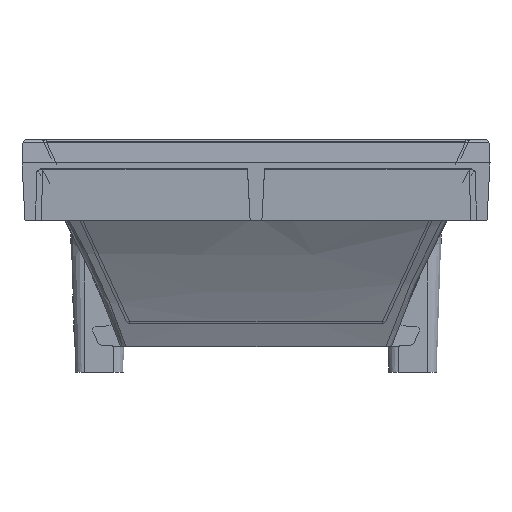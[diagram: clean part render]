
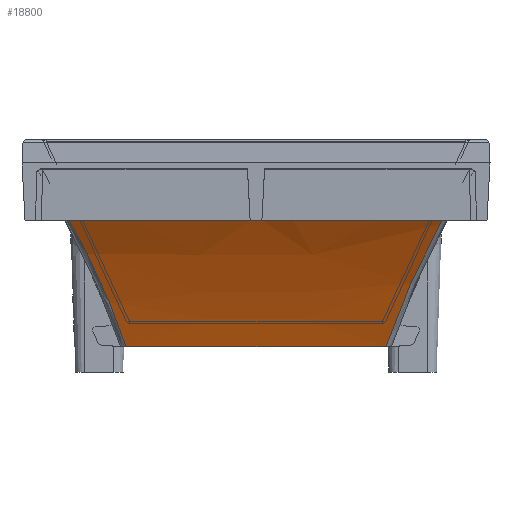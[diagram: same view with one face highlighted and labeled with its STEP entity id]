
A CAD part, left-side view. The second image highlights one B-rep face of the part: STEP entity #18800.
In plain terms, the highlighted free-form (B-spline) face has degree [3, 3] with [7, 4] control points.
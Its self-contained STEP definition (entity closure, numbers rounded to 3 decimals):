
#146=B_SPLINE_SURFACE_WITH_KNOTS('',3,3,((#30131,#30132,#30133,#30134),
(#30135,#30136,#30137,#30138),(#30139,#30140,#30141,#30142),(#30143,#30144,
#30145,#30146),(#30147,#30148,#30149,#30150),(#30151,#30152,#30153,#30154),
(#30155,#30156,#30157,#30158)),.UNSPECIFIED.,.F.,.F.,.F.,(4,1,1,1,4),(4,
4),(0.049,0.431,0.59,0.701,
0.813),(-0.036,1.036),.UNSPECIFIED.);
#1382=B_SPLINE_CURVE_WITH_KNOTS('',3,(#26547,#26548,#26549,#26550),
 .UNSPECIFIED.,.F.,.F.,(4,4),(0.,0.022),.UNSPECIFIED.);
#1785=B_SPLINE_CURVE_WITH_KNOTS('',3,(#30159,#30160,#30161,#30162,#30163,
#30164),.UNSPECIFIED.,.F.,.F.,(4,1,1,4),(0.,0.005,0.01,
0.019),.UNSPECIFIED.);
#1786=B_SPLINE_CURVE_WITH_KNOTS('',3,(#30166,#30167,#30168,#30169),
 .UNSPECIFIED.,.F.,.F.,(4,4),(0.,0.),.UNSPECIFIED.);
#1787=B_SPLINE_CURVE_WITH_KNOTS('',3,(#30171,#30172,#30173,#30174),
 .UNSPECIFIED.,.F.,.F.,(4,4),(0.,0.018),
 .UNSPECIFIED.);
#1788=B_SPLINE_CURVE_WITH_KNOTS('',3,(#30176,#30177,#30178,#30179),
 .UNSPECIFIED.,.F.,.F.,(4,4),(0.,0.005),.UNSPECIFIED.);
#1789=B_SPLINE_CURVE_WITH_KNOTS('',3,(#30181,#30182,#30183,#30184),
 .UNSPECIFIED.,.F.,.F.,(4,4),(0.,0.001),.UNSPECIFIED.);
#1790=B_SPLINE_CURVE_WITH_KNOTS('',3,(#30186,#30187,#30188,#30189),
 .UNSPECIFIED.,.F.,.F.,(4,4),(0.,0.005),.UNSPECIFIED.);
#1791=B_SPLINE_CURVE_WITH_KNOTS('',3,(#30191,#30192,#30193,#30194),
 .UNSPECIFIED.,.F.,.F.,(4,4),(0.,0.018),.UNSPECIFIED.);
#1792=B_SPLINE_CURVE_WITH_KNOTS('',3,(#30196,#30197,#30198,#30199),
 .UNSPECIFIED.,.F.,.F.,(4,4),(0.,0.),.UNSPECIFIED.);
#1793=B_SPLINE_CURVE_WITH_KNOTS('',3,(#30201,#30202,#30203,#30204,#30205,
#30206),.UNSPECIFIED.,.F.,.F.,(4,1,1,4),(0.,0.01,
0.014,0.019),.UNSPECIFIED.);
#5590=ORIENTED_EDGE('',*,*,#11471,.T.);
#5591=ORIENTED_EDGE('',*,*,#11472,.T.);
#5592=ORIENTED_EDGE('',*,*,#11473,.T.);
#5593=ORIENTED_EDGE('',*,*,#11474,.F.);
#5594=ORIENTED_EDGE('',*,*,#11475,.F.);
#5595=ORIENTED_EDGE('',*,*,#11476,.F.);
#5596=ORIENTED_EDGE('',*,*,#11477,.T.);
#5597=ORIENTED_EDGE('',*,*,#11478,.T.);
#5598=ORIENTED_EDGE('',*,*,#11479,.T.);
#5599=ORIENTED_EDGE('',*,*,#10905,.F.);
#10905=EDGE_CURVE('',#13901,#13902,#1382,.T.);
#11471=EDGE_CURVE('',#13901,#14356,#1785,.T.);
#11472=EDGE_CURVE('',#14356,#14357,#1786,.T.);
#11473=EDGE_CURVE('',#14357,#14358,#1787,.T.);
#11474=EDGE_CURVE('',#14359,#14358,#1788,.T.);
#11475=EDGE_CURVE('',#14360,#14359,#1789,.T.);
#11476=EDGE_CURVE('',#14361,#14360,#1790,.T.);
#11477=EDGE_CURVE('',#14361,#14362,#1791,.T.);
#11478=EDGE_CURVE('',#14362,#14363,#1792,.T.);
#11479=EDGE_CURVE('',#14363,#13902,#1793,.T.);
#13901=VERTEX_POINT('',#26546);
#13902=VERTEX_POINT('',#26551);
#14356=VERTEX_POINT('',#30165);
#14357=VERTEX_POINT('',#30170);
#14358=VERTEX_POINT('',#30175);
#14359=VERTEX_POINT('',#30180);
#14360=VERTEX_POINT('',#30185);
#14361=VERTEX_POINT('',#30190);
#14362=VERTEX_POINT('',#30195);
#14363=VERTEX_POINT('',#30200);
#15863=EDGE_LOOP('',(#5590,#5591,#5592,#5593,#5594,#5595,#5596,#5597,#5598,
#5599));
#17131=FACE_BOUND('',#15863,.T.);
#18800=ADVANCED_FACE('',(#17131),#146,.T.);
#26546=CARTESIAN_POINT('',(-12.921,-11.114,0.));
#26547=CARTESIAN_POINT('',(-12.921,-11.114,0.));
#26548=CARTESIAN_POINT('',(-12.921,-3.705,0.));
#26549=CARTESIAN_POINT('',(-12.921,3.705,0.));
#26550=CARTESIAN_POINT('',(-12.921,11.114,0.));
#26551=CARTESIAN_POINT('',(-12.921,11.114,0.));
#30131=CARTESIAN_POINT('',(-21.886,18.773,15.227));
#30132=CARTESIAN_POINT('',(-21.886,6.258,15.227));
#30133=CARTESIAN_POINT('',(-21.886,-6.258,15.227));
#30134=CARTESIAN_POINT('',(-21.886,-18.773,15.227));
#30135=CARTESIAN_POINT('',(-20.106,17.389,12.837));
#30136=CARTESIAN_POINT('',(-20.106,5.796,12.837));
#30137=CARTESIAN_POINT('',(-20.106,-5.796,12.837));
#30138=CARTESIAN_POINT('',(-20.106,-17.389,12.837));
#30139=CARTESIAN_POINT('',(-17.761,15.437,9.365));
#30140=CARTESIAN_POINT('',(-17.761,5.146,9.365));
#30141=CARTESIAN_POINT('',(-17.761,-5.146,9.365));
#30142=CARTESIAN_POINT('',(-17.761,-15.437,9.365));
#30143=CARTESIAN_POINT('',(-15.301,13.255,4.992));
#30144=CARTESIAN_POINT('',(-15.301,4.418,4.992));
#30145=CARTESIAN_POINT('',(-15.301,-4.418,4.992));
#30146=CARTESIAN_POINT('',(-15.301,-13.255,4.992));
#30147=CARTESIAN_POINT('',(-13.977,12.1,2.366));
#30148=CARTESIAN_POINT('',(-13.977,4.033,2.366));
#30149=CARTESIAN_POINT('',(-13.977,-4.033,2.366));
#30150=CARTESIAN_POINT('',(-13.977,-12.1,2.366));
#30151=CARTESIAN_POINT('',(-13.262,11.493,0.797));
#30152=CARTESIAN_POINT('',(-13.262,3.831,0.797));
#30153=CARTESIAN_POINT('',(-13.262,-3.831,0.797));
#30154=CARTESIAN_POINT('',(-13.262,-11.493,0.797));
#30155=CARTESIAN_POINT('',(-12.921,11.248,0.));
#30156=CARTESIAN_POINT('',(-12.921,3.749,0.));
#30157=CARTESIAN_POINT('',(-12.921,-3.749,0.));
#30158=CARTESIAN_POINT('',(-12.921,-11.248,0.));
#30159=CARTESIAN_POINT('',(-12.921,-11.114,0.));
#30160=CARTESIAN_POINT('',(-13.528,-11.545,1.416));
#30161=CARTESIAN_POINT('',(-14.819,-12.598,4.127));
#30162=CARTESIAN_POINT('',(-17.693,-15.038,9.273));
#30163=CARTESIAN_POINT('',(-20.142,-16.995,12.886));
#30164=CARTESIAN_POINT('',(-21.879,-18.307,15.218));
#30165=CARTESIAN_POINT('',(-21.879,-18.307,15.218));
#30166=CARTESIAN_POINT('',(-21.879,-18.307,15.218));
#30167=CARTESIAN_POINT('',(-21.883,-18.283,15.224));
#30168=CARTESIAN_POINT('',(-21.886,-18.258,15.227));
#30169=CARTESIAN_POINT('',(-21.886,-18.232,15.227));
#30170=CARTESIAN_POINT('',(-21.886,-18.232,15.227));
#30171=CARTESIAN_POINT('',(-21.886,-18.232,15.227));
#30172=CARTESIAN_POINT('',(-21.886,-12.399,15.227));
#30173=CARTESIAN_POINT('',(-21.886,-6.565,15.227));
#30174=CARTESIAN_POINT('',(-21.886,-0.732,15.227));
#30175=CARTESIAN_POINT('',(-21.886,-0.732,15.227));
#30176=CARTESIAN_POINT('',(-18.786,-0.5,10.8));
#30177=CARTESIAN_POINT('',(-19.774,-0.579,12.308));
#30178=CARTESIAN_POINT('',(-20.809,-0.656,13.782));
#30179=CARTESIAN_POINT('',(-21.886,-0.732,15.227));
#30180=CARTESIAN_POINT('',(-18.786,-0.5,10.8));
#30181=CARTESIAN_POINT('',(-18.786,0.5,10.8));
#30182=CARTESIAN_POINT('',(-18.786,0.167,10.8));
#30183=CARTESIAN_POINT('',(-18.786,-0.167,10.8));
#30184=CARTESIAN_POINT('',(-18.786,-0.5,10.8));
#30185=CARTESIAN_POINT('',(-18.786,0.5,10.8));
#30186=CARTESIAN_POINT('',(-21.886,0.732,15.227));
#30187=CARTESIAN_POINT('',(-20.809,0.656,13.782));
#30188=CARTESIAN_POINT('',(-19.774,0.579,12.308));
#30189=CARTESIAN_POINT('',(-18.786,0.5,10.8));
#30190=CARTESIAN_POINT('',(-21.886,0.732,15.227));
#30191=CARTESIAN_POINT('',(-21.886,0.732,15.227));
#30192=CARTESIAN_POINT('',(-21.886,6.565,15.227));
#30193=CARTESIAN_POINT('',(-21.886,12.399,15.227));
#30194=CARTESIAN_POINT('',(-21.886,18.232,15.227));
#30195=CARTESIAN_POINT('',(-21.886,18.232,15.227));
#30196=CARTESIAN_POINT('',(-21.886,18.232,15.227));
#30197=CARTESIAN_POINT('',(-21.886,18.258,15.227));
#30198=CARTESIAN_POINT('',(-21.883,18.283,15.224));
#30199=CARTESIAN_POINT('',(-21.879,18.307,15.218));
#30200=CARTESIAN_POINT('',(-21.879,18.307,15.218));
#30201=CARTESIAN_POINT('',(-21.879,18.307,15.218));
#30202=CARTESIAN_POINT('',(-20.142,16.995,12.886));
#30203=CARTESIAN_POINT('',(-17.693,15.038,9.273));
#30204=CARTESIAN_POINT('',(-14.819,12.598,4.127));
#30205=CARTESIAN_POINT('',(-13.528,11.545,1.416));
#30206=CARTESIAN_POINT('',(-12.921,11.114,0.));
